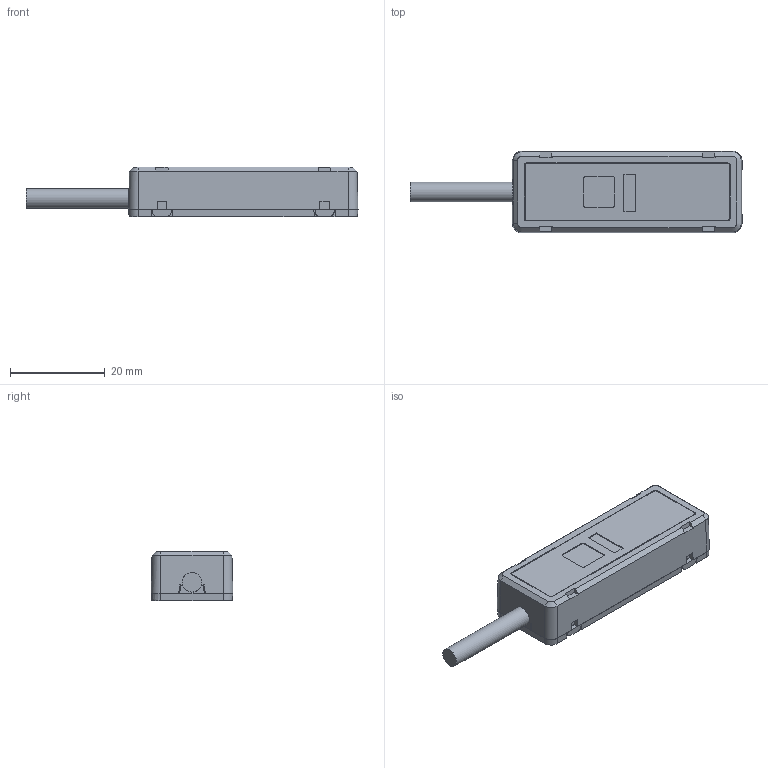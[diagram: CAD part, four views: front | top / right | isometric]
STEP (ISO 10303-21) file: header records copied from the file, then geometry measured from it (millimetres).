
FILE_DESCRIPTION(/* description */ (''),/* implementation_level */ '2;1');
FILE_NAME(/* name */ 'LS-终端.stp',/* time_stamp */ '2025-04-15T15:40:26+08:00',/* author */ (''),/* organization */ (''),/* preprocessor_version */ 'ST-DEVELOPER v16',/* originating_system */ 'SIEMENS PLM Software NX 10.0',/* authorisation */ '');
FILE_SCHEMA (('AUTOMOTIVE_DESIGN { 1 0 10303 214 3 1 1 1 }'));
Length unit declared in the file: millimetre
Products named in the file (1): chao6D007F7Eqmbf
Bounding box: 70.15 x 17.3 x 10.5 mm (x, y, z)
Volume: 9094.5 mm3; surface area: 6684.6 mm2
Topology: 8 solids, 8 shells, 201 faces, 531 edges, 349 vertices
Faces by surface type: plane 153, cylinder 22, cone 14, bspline 12
Full cylindrical faces by diameter (mm): 4.1 x2
Entity records: 7487 total; most frequent: CARTESIAN_POINT 2474, ORIENTED_EDGE 1054, DIRECTION 926, EDGE_CURVE 527, LINE 418, VECTOR 418, VERTEX_POINT 349, AXIS2_PLACEMENT_3D 254
